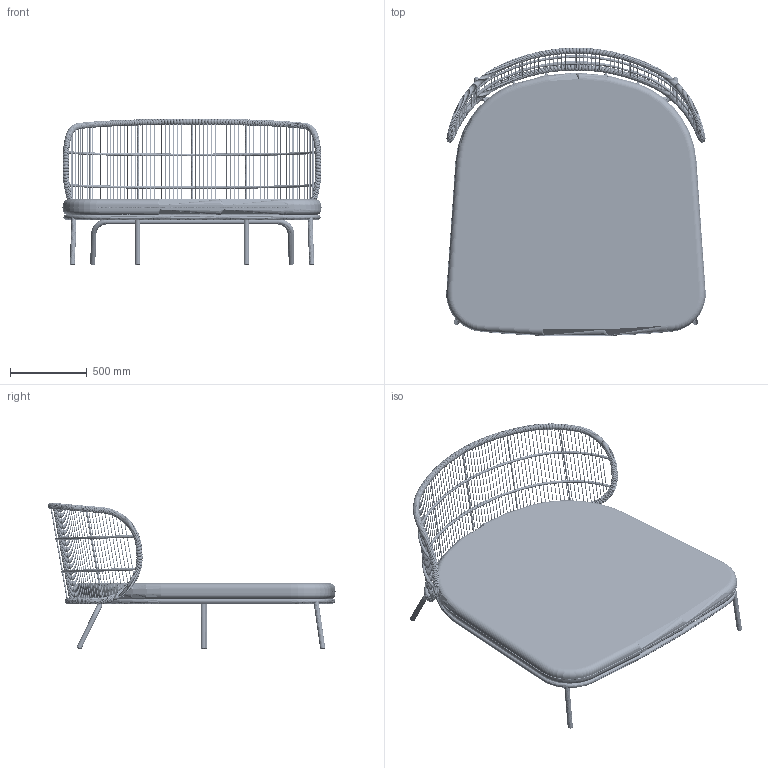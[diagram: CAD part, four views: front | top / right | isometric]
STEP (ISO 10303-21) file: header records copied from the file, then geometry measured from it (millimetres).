
FILE_DESCRIPTION(/* description */ (''),/* implementation_level */ '2;1');
FILE_NAME(/* name */ 'U:/01 COLLECTIE/02 OUTDOOR/01 Producten/Kodo collection/Daybed/3d/Vincentsheppard_Kodo_Daybed.step',/* time_stamp */ '2021-07-15T09:17:15+02:00',/* author */ (''),/* organization */ (''),/* preprocessor_version */ 'ST-DEVELOPER v18.1',/* originating_system */ 'Autodesk Translation Framework v10.9.0.1377',/* authorisation */ '');
FILE_SCHEMA (('AUTOMOTIVE_DESIGN { 1 0 10303 214 3 1 1 }'));
Products named in the file (7): Vincentsheppard_Kodo_Daybed; AVE_GLOBAL; AVE_RENDER; Component3; Pillow v1; Pillow v1 (1); Pillow v1 (2)
Assembly tree (17 placements, depth 2):
  Vincentsheppard_Kodo_Daybed
    AVE_RENDER  x8
    AVE_GLOBAL
    Component3
    Pillow v1  x2
    Pillow v1 (1)  x3
    Pillow v1 (2)  x2
Bounding box: 1694 x 1886.13 x 958.73 mm (x, y, z)
Volume: 300970465 mm3; surface area: 21107624.5 mm2
Topology: 1240 solids, 1240 shells, 2386 faces, 4659 edges, 2767 vertices
Faces by surface type: torus 1037, plane 829, cylinder 322, bspline 172, cone 24, sphere 2
Full cylindrical faces by diameter (mm): 5.28 x81, 8.941 x6, 17.882 x18, 18.329 x6, 18.999 x46, 20.564 x12, 23.917 x30, 33.528 x19
Entity records: 82389 total; most frequent: CARTESIAN_POINT 29479, DIRECTION 11434, ORIENTED_EDGE 9302, AXIS2_PLACEMENT_3D 5008, EDGE_CURVE 4651, VERTEX_POINT 2767, CIRCLE 2718, EDGE_LOOP 2546
